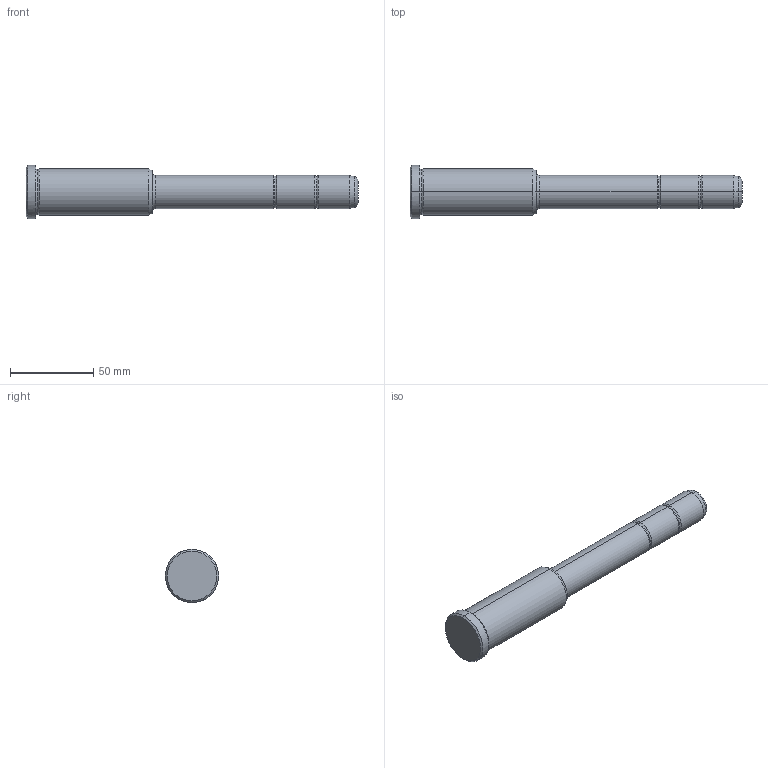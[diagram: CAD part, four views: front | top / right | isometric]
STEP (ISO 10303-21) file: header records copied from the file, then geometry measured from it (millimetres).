
FILE_DESCRIPTION(('CATIA V5 STEP Exchange'),'2;1');
FILE_NAME('C:\Users\Utente\Desktop\IO LAVORO\3D X SITO CF\X SITO\PLASTICA\351\351-20X76X200.stp','2021-08-27T13:08:04+00:00',('none'),('none'),'CATIA Version 5 Release 20 GA (IN-10)','CATIA V5 STEP AP203','none');
FILE_SCHEMA(('CONFIG_CONTROL_DESIGN'));
Length unit declared in the file: millimetre
Products named in the file (1): 351-20X76X200
Bounding box: 200 x 32 x 32 mm (x, y, z)
Volume: 86391.7 mm3; surface area: 15894.5 mm2
Topology: 1 solids, 1 shells, 36 faces, 102 edges, 70 vertices
Faces by surface type: torus 16, cylinder 10, cone 6, plane 4
Entity records: 1292 total; most frequent: CARTESIAN_POINT 321, ORIENTED_EDGE 204, DIRECTION 166, AXIS2_PLACEMENT_3D 115, EDGE_CURVE 102, CIRCLE 78, VERTEX_POINT 70, EDGE_LOOP 38
